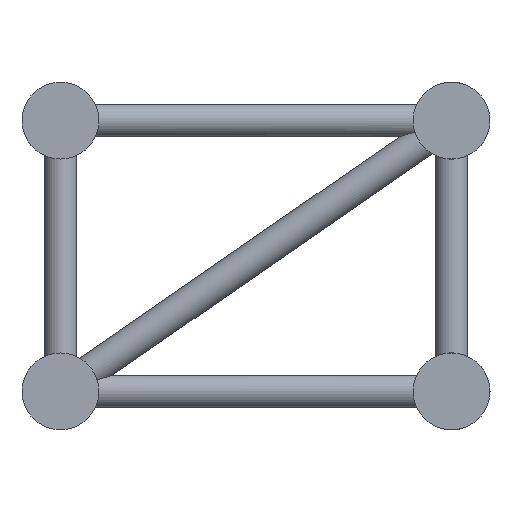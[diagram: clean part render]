
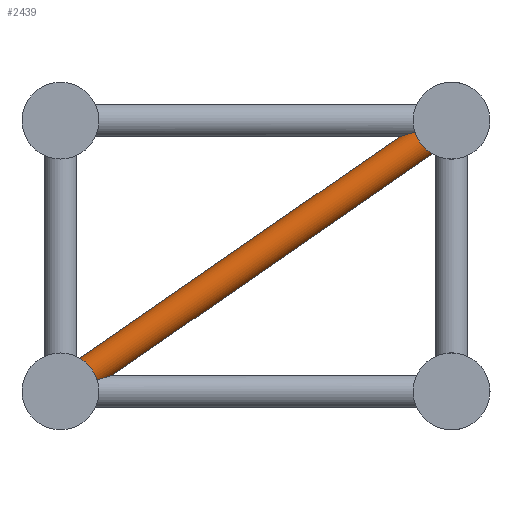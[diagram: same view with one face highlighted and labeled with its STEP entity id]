
A CAD part, left-side view. The second image highlights one B-rep face of the part: STEP entity #2439.
In plain terms, the highlighted cylindrical face has radius 12.5 mm (diameter 25 mm), a full revolution.
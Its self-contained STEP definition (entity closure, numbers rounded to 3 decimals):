
#22=ELLIPSE('',#2665,41.923,12.5);
#23=ELLIPSE('',#2667,41.923,12.5);
#96=FACE_BOUND('',#712,.T.);
#379=CYLINDRICAL_SURFACE('',#2664,12.5);
#474=FACE_OUTER_BOUND('',#711,.T.);
#711=EDGE_LOOP('',(#1759,#1760));
#712=EDGE_LOOP('',(#1761,#1762));
#965=CIRCLE('',#2666,12.5);
#966=CIRCLE('',#2668,12.5);
#1165=VERTEX_POINT('',#5509);
#1166=VERTEX_POINT('',#5510);
#1167=VERTEX_POINT('',#5513);
#1168=VERTEX_POINT('',#5514);
#1383=EDGE_CURVE('',#1165,#1166,#22,.T.);
#1384=EDGE_CURVE('',#1166,#1165,#965,.T.);
#1385=EDGE_CURVE('',#1167,#1168,#23,.T.);
#1386=EDGE_CURVE('',#1168,#1167,#966,.T.);
#1759=ORIENTED_EDGE('',*,*,#1383,.F.);
#1760=ORIENTED_EDGE('',*,*,#1384,.F.);
#1761=ORIENTED_EDGE('',*,*,#1385,.F.);
#1762=ORIENTED_EDGE('',*,*,#1386,.F.);
#2439=ADVANCED_FACE('',(#474,#96),#379,.T.);
#2664=AXIS2_PLACEMENT_3D('',#5508,#3119,#3120);
#2665=AXIS2_PLACEMENT_3D('',#5511,#3121,#3122);
#2666=AXIS2_PLACEMENT_3D('',#5512,#3123,#3124);
#2667=AXIS2_PLACEMENT_3D('',#5515,#3125,#3126);
#2668=AXIS2_PLACEMENT_3D('',#5516,#3127,#3128);
#3119=DIRECTION('center_axis',(0.,-0.822,
0.569));
#3120=DIRECTION('ref_axis',(1.,0.,0.));
#3121=DIRECTION('center_axis',(0.,0.298,
0.955));
#3122=DIRECTION('ref_axis',(0.,0.955,-0.298));
#3123=DIRECTION('center_axis',(0.,-0.822,
0.569));
#3124=DIRECTION('ref_axis',(1.,0.,0.));
#3125=DIRECTION('center_axis',(0.,-0.298,
-0.955));
#3126=DIRECTION('ref_axis',(0.,0.955,-0.298));
#3127=DIRECTION('center_axis',(0.,0.822,-0.569));
#3128=DIRECTION('ref_axis',(1.,0.,0.));
#5508=CARTESIAN_POINT('Origin',(92.5,278.173,-192.581));
#5509=CARTESIAN_POINT('',(102.177,25.331,-7.913));
#5510=CARTESIAN_POINT('',(82.823,25.331,-7.913));
#5511=CARTESIAN_POINT('Origin',(92.5,0.,0.));
#5512=CARTESIAN_POINT('Origin',(92.5,20.827,-14.419));
#5513=CARTESIAN_POINT('',(102.177,273.669,-199.087));
#5514=CARTESIAN_POINT('',(82.823,273.669,-199.087));
#5515=CARTESIAN_POINT('Origin',(92.5,299.,-207.));
#5516=CARTESIAN_POINT('Origin',(92.5,278.173,-192.581));
